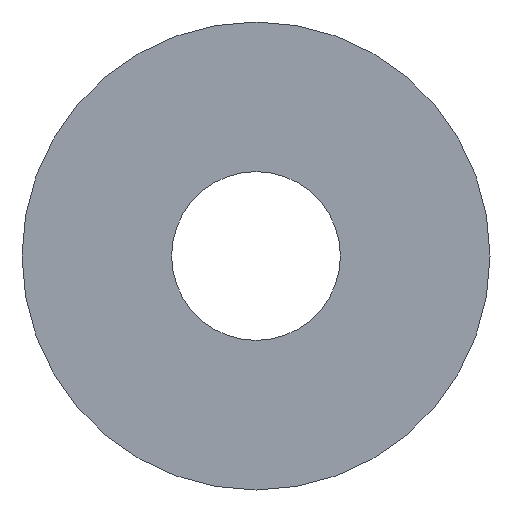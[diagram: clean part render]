
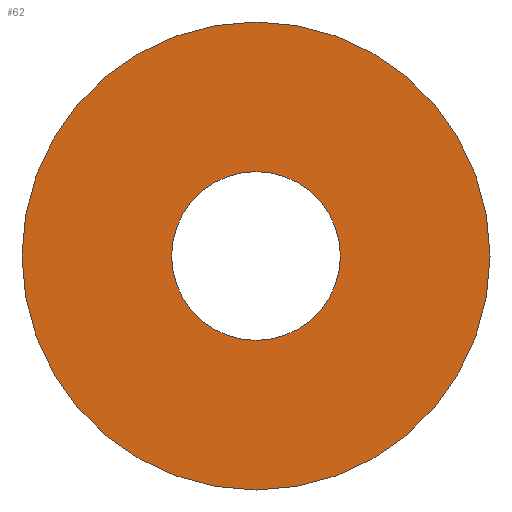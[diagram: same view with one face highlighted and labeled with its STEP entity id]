
A CAD part, front view. The second image highlights one B-rep face of the part: STEP entity #62.
In plain terms, the highlighted planar face has unit normal (0, -1, 0).
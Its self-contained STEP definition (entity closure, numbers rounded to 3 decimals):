
#20=PLANE('',#83);
#26=ORIENTED_EDGE('',*,*,#30,.T.);
#27=ORIENTED_EDGE('',*,*,#32,.F.);
#30=EDGE_CURVE('',#34,#34,#38,.T.);
#32=EDGE_CURVE('',#36,#36,#40,.T.);
#34=VERTEX_POINT('',#106);
#36=VERTEX_POINT('',#111);
#38=CIRCLE('',#78,11.);
#40=CIRCLE('',#81,30.5);
#46=EDGE_LOOP('',(#26));
#47=EDGE_LOOP('',(#27));
#54=FACE_BOUND('',#46,.T.);
#55=FACE_BOUND('',#47,.T.);
#62=ADVANCED_FACE('',(#54,#55),#20,.F.);
#78=AXIS2_PLACEMENT_3D('',#105,#89,#90);
#81=AXIS2_PLACEMENT_3D('',#110,#95,#96);
#83=AXIS2_PLACEMENT_3D('',#114,#99,#100);
#89=DIRECTION('',(0.,1.,0.));
#90=DIRECTION('',(1.,0.,0.));
#95=DIRECTION('',(0.,1.,0.));
#96=DIRECTION('',(1.,0.,0.));
#99=DIRECTION('',(0.,1.,0.));
#100=DIRECTION('',(0.,0.,1.));
#105=CARTESIAN_POINT('',(0.,-1.5,0.));
#106=CARTESIAN_POINT('',(11.,-1.5,0.));
#110=CARTESIAN_POINT('',(0.,-1.5,0.));
#111=CARTESIAN_POINT('',(30.5,-1.5,0.));
#114=CARTESIAN_POINT('',(0.,-1.5,0.));
